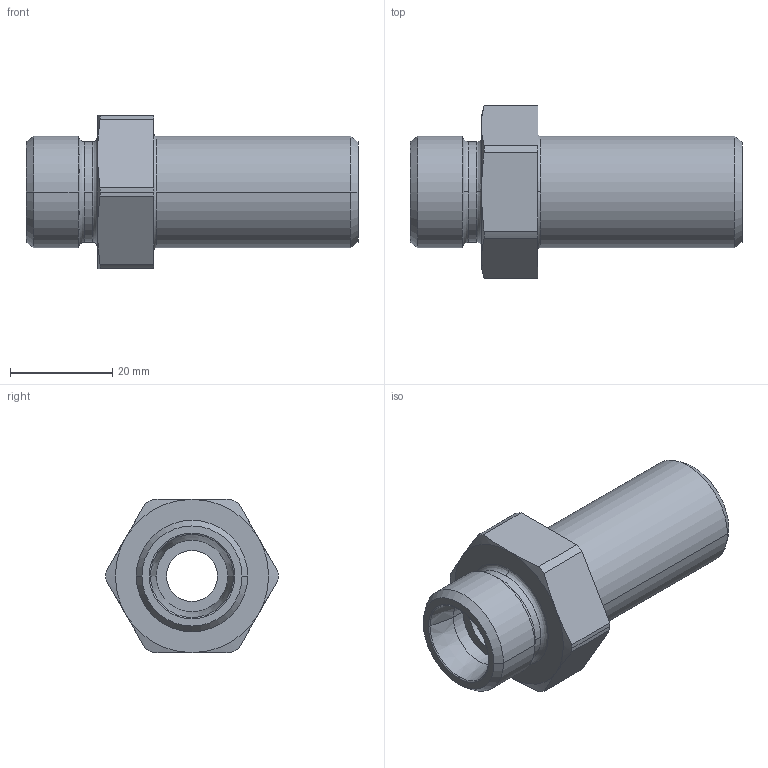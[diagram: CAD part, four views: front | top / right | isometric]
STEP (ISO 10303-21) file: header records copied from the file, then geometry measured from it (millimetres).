
FILE_DESCRIPTION((''),'2;1');
FILE_NAME('103618.stp','2007-10-31T11:38:46',(''),(''),'AutoCAD STEP 2000i','AutoCAD 2000i',', , ');
FILE_SCHEMA(('CONFIG_CONTROL_DESIGN'));
Length unit declared in the file: millimetre
Products named in the file (2): 103618.0; CHIAVE SMUSSX1036#0
Assembly tree (1 placements, depth 2):
  103618.0
    CHIAVE SMUSSX1036#0
Bounding box: 65 x 33.7 x 30 mm (x, y, z)
Volume: 21801.2 mm3; surface area: 8328.2 mm2
Topology: 1 solids, 1 shells, 58 faces, 144 edges, 92 vertices
Faces by surface type: cylinder 20, cone 16, plane 12, bspline 6, torus 4
Entity records: 2103 total; most frequent: CARTESIAN_POINT 584, DIRECTION 330, ORIENTED_EDGE 288, AXIS2_PLACEMENT_3D 144, EDGE_CURVE 144, VERTEX_POINT 92, CIRCLE 90, EDGE_LOOP 64
